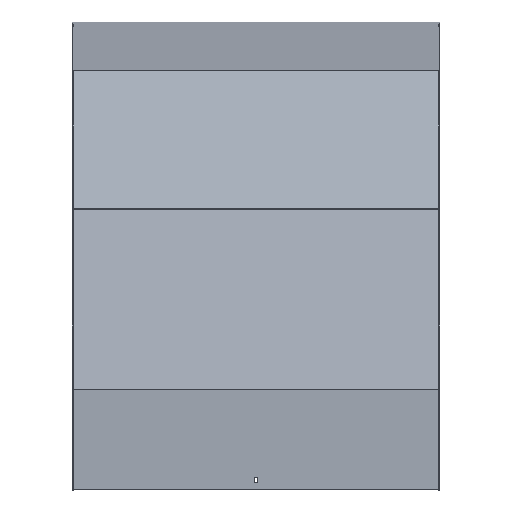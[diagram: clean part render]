
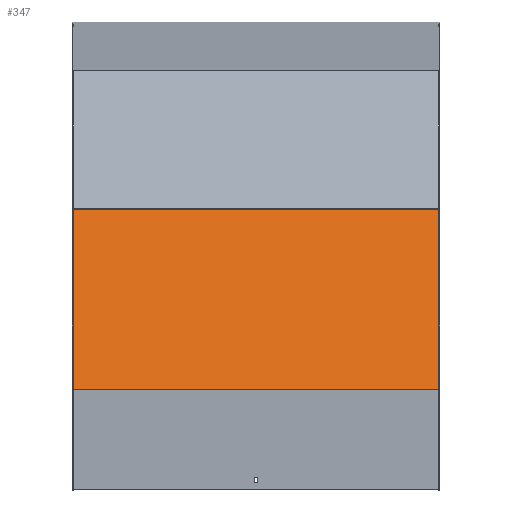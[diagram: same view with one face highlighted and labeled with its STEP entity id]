
A CAD part, top view. The second image highlights one B-rep face of the part: STEP entity #347.
In plain terms, the highlighted planar face has unit normal (0, 0.259, 0.966).
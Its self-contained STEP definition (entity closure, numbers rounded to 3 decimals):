
#65 = CARTESIAN_POINT ( 'NONE',  ( -301.5, -292.828, 691.748 ) ) ;
#73 = VERTEX_POINT ( 'NONE', #919 ) ;
#100 = ORIENTED_EDGE ( 'NONE', *, *, #319, .F. ) ;
#112 = VECTOR ( 'NONE', #887, 1000. ) ;
#134 = CARTESIAN_POINT ( 'NONE',  ( 301.5, -584.183, 769.816 ) ) ;
#158 = ORIENTED_EDGE ( 'NONE', *, *, #686, .T. ) ;
#204 = CARTESIAN_POINT ( 'NONE',  ( 301.5, -292.828, 691.748 ) ) ;
#250 = VERTEX_POINT ( 'NONE', #593 ) ;
#270 = LINE ( 'NONE', #526, #415 ) ;
#273 = DIRECTION ( 'NONE',  ( -1., 0., 0. ) ) ;
#286 = ORIENTED_EDGE ( 'NONE', *, *, #524, .T. ) ;
#319 = EDGE_CURVE ( 'NONE', #814, #250, #270, .T. ) ;
#333 = VERTEX_POINT ( 'NONE', #356 ) ;
#335 = AXIS2_PLACEMENT_3D ( 'NONE', #204, #441, #370 ) ;
#347 = ADVANCED_FACE ( 'NONE', ( #706 ), #890, .F. ) ;
#355 = LINE ( 'NONE', #705, #869 ) ;
#356 = CARTESIAN_POINT ( 'NONE',  ( -301.5, -584.183, 769.816 ) ) ;
#370 = DIRECTION ( 'NONE',  ( 0., 0.966, -0.259 ) ) ;
#385 = EDGE_LOOP ( 'NONE', ( #286, #958, #100, #158 ) ) ;
#415 = VECTOR ( 'NONE', #628, 1000. ) ;
#441 = DIRECTION ( 'NONE',  ( 0., -0.259, -0.966 ) ) ;
#524 = EDGE_CURVE ( 'NONE', #73, #333, #1012, .T. ) ;
#526 = CARTESIAN_POINT ( 'NONE',  ( 301.5, -292.828, 691.748 ) ) ;
#593 = CARTESIAN_POINT ( 'NONE',  ( 301.5, -584.183, 769.816 ) ) ;
#628 = DIRECTION ( 'NONE',  ( 0., -0.966, 0.259 ) ) ;
#686 = EDGE_CURVE ( 'NONE', #814, #73, #355, .T. ) ;
#705 = CARTESIAN_POINT ( 'NONE',  ( 301.5, -287.651, 690.361 ) ) ;
#706 = FACE_OUTER_BOUND ( 'NONE', #385, .T. ) ;
#786 = CARTESIAN_POINT ( 'NONE',  ( 301.5, -287.651, 690.361 ) ) ;
#814 = VERTEX_POINT ( 'NONE', #786 ) ;
#852 = DIRECTION ( 'NONE',  ( 0., -0.966, 0.259 ) ) ;
#869 = VECTOR ( 'NONE', #273, 1000. ) ;
#885 = VECTOR ( 'NONE', #852, 1000. ) ;
#887 = DIRECTION ( 'NONE',  ( -1., 0., 0. ) ) ;
#890 = PLANE ( 'NONE',  #335 ) ;
#908 = LINE ( 'NONE', #134, #112 ) ;
#917 = EDGE_CURVE ( 'NONE', #250, #333, #908, .T. ) ;
#919 = CARTESIAN_POINT ( 'NONE',  ( -301.5, -287.651, 690.361 ) ) ;
#958 = ORIENTED_EDGE ( 'NONE', *, *, #917, .F. ) ;
#1012 = LINE ( 'NONE', #65, #885 ) ;
